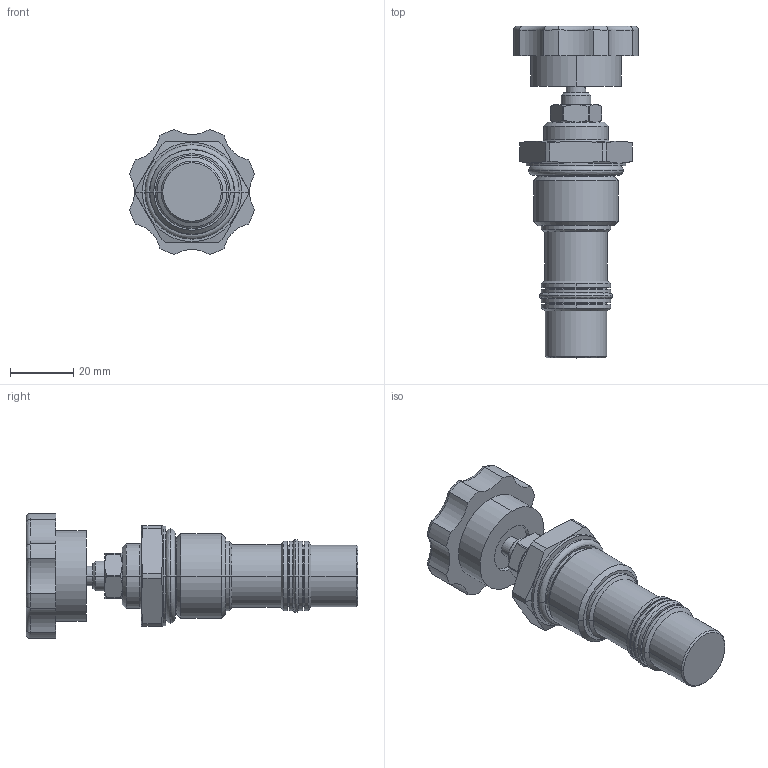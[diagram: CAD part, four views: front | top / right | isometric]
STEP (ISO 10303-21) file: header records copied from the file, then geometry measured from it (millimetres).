
FILE_DESCRIPTION((''),'2;1');
FILE_NAME('5423400_SW0002','2009-02-03T',('jcs'),(''),'PRO/ENGINEER BY PARAMETRIC TECHNOLOGY CORPORATION, 2008010','PRO/ENGINEER BY PARAMETRIC TECHNOLOGY CORPORATION, 2008010','');
FILE_SCHEMA(('CONFIG_CONTROL_DESIGN'));
Length unit declared in the file: inch
Products named in the file (1): 5423400_SW0002
Bounding box: 39.67 x 105.28 x 39.67 mm (x, y, z)
Volume: 51245.7 mm3; surface area: 14528.9 mm2
Topology: 3 solids, 4 shells, 182 faces, 417 edges, 251 vertices
Faces by surface type: cylinder 66, cone 36, torus 34, plane 30, revolution 16
Entity records: 5913 total; most frequent: CARTESIAN_POINT 1710, DIRECTION 929, ORIENTED_EDGE 834, EDGE_CURVE 417, AXIS2_PLACEMENT_3D 400, VERTEX_POINT 251, CIRCLE 234, EDGE_LOOP 196
